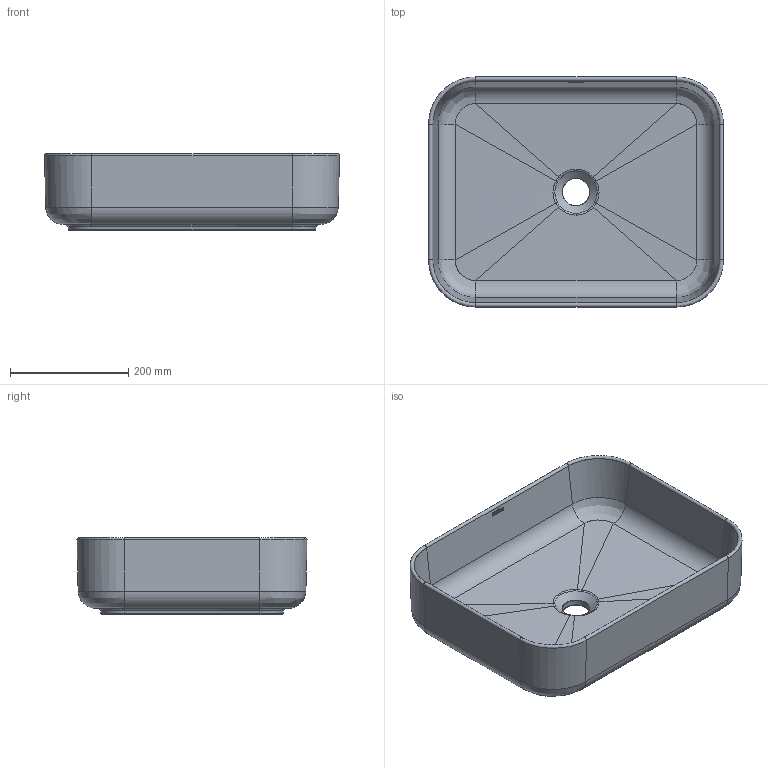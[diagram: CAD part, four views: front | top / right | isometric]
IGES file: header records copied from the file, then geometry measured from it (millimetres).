
Global section: file name: C:\Users\User\Desktop\4113 4154 4155 New Dinan Rectangular\4113 4154 4155 New Dinan Rectangular.igs; native system: Rhinoceros ( Feb 26 2015 ); preprocessor: Trout Lake IGES 012 Feb 26 2015; date: 200918.124814; units: millimetre
Bounding box: 499.84 x 389.84 x 130 mm (x, y, z)
Surface area: 686490.9 mm2 (no closed solid volume)
Topology: 0 solids, 0 shells, 203 faces, 1030 edges, 1018 vertices
Faces by surface type: bspline 203
